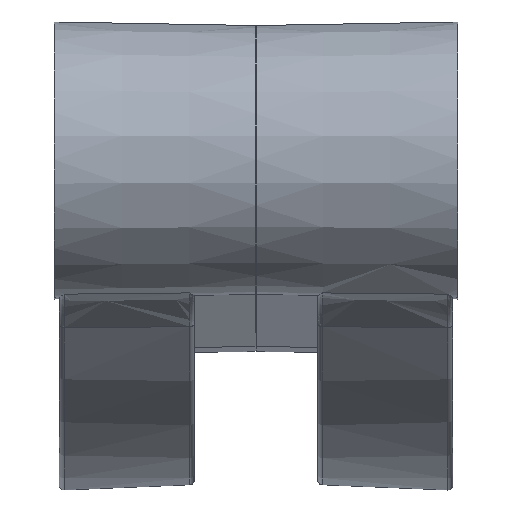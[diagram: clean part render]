
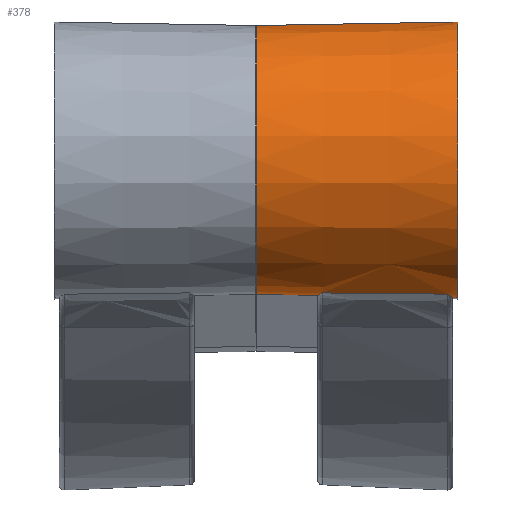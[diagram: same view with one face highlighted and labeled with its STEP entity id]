
A CAD part, top view. The second image highlights one B-rep face of the part: STEP entity #378.
In plain terms, the highlighted conical face has half-angle 1 degrees and reference radius 2.8 mm.
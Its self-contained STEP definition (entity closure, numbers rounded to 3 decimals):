
#262=CARTESIAN_POINT('',(2.0,0.,7.5));
#263=DIRECTION('',(1.0,0.0,0.0));
#264=DIRECTION('',(0.0,1.0,0.0));
#265=AXIS2_PLACEMENT_3D('',#262,#263,#264);
#266=CONICAL_SURFACE('',#265,2.8,1.0);
#267=CARTESIAN_POINT('',(2.0,2.8,7.5));
#268=VERTEX_POINT('',#267);
#269=CARTESIAN_POINT('',(2.1,2.802,7.5));
#270=VERTEX_POINT('',#269);
#271=CARTESIAN_POINT('',(2.0,2.8,7.5));
#272=DIRECTION('',(1.,0.017,0.0));
#273=VECTOR('',#272,0.1);
#274=LINE('',#271,#273);
#275=EDGE_CURVE('',#268,#270,#274,.T.);
#276=ORIENTED_EDGE('',*,*,#275,.F.);
#277=CARTESIAN_POINT('',(-2.0,2.73,7.5));
#278=VERTEX_POINT('',#277);
#279=CARTESIAN_POINT('',(2.0,2.8,7.5));
#280=DIRECTION('',(-1.,-0.017,0.0));
#281=VECTOR('',#280,4.001);
#282=LINE('',#279,#281);
#283=EDGE_CURVE('',#268,#278,#282,.T.);
#284=ORIENTED_EDGE('',*,*,#283,.T.);
#285=CARTESIAN_POINT('',(-2.0,-2.73,7.5));
#286=VERTEX_POINT('',#285);
#287=CARTESIAN_POINT('',(-2.0,0.,7.5));
#288=DIRECTION('',(-1.0,0.0,0.0));
#289=DIRECTION('',(0.0,1.0,0.0));
#290=AXIS2_PLACEMENT_3D('',#287,#288,#289);
#291=CIRCLE('',#290,2.73);
#292=EDGE_CURVE('',#278,#286,#291,.F.);
#293=ORIENTED_EDGE('',*,*,#292,.T.);
#294=CARTESIAN_POINT('',(-0.75,-2.752,7.5));
#295=VERTEX_POINT('',#294);
#296=CARTESIAN_POINT('',(-0.75,-2.752,7.5));
#297=DIRECTION('',(-1.,0.017,0.0));
#298=VECTOR('',#297,1.25);
#299=LINE('',#296,#298);
#300=EDGE_CURVE('',#295,#286,#299,.T.);
#301=ORIENTED_EDGE('',*,*,#300,.F.);
#302=CARTESIAN_POINT('',(-0.75,-2.752,7.533));
#303=VERTEX_POINT('',#302);
#304=CARTESIAN_POINT('',(-0.75,0.,7.5));
#305=DIRECTION('',(-1.0,0.0,0.0));
#306=DIRECTION('',(0.0,1.0,0.0));
#307=AXIS2_PLACEMENT_3D('',#304,#305,#306);
#308=CIRCLE('',#307,2.752);
#309=EDGE_CURVE('',#295,#303,#308,.T.);
#310=ORIENTED_EDGE('',*,*,#309,.T.);
#311=CARTESIAN_POINT('',(-0.652,-2.705,8.015));
#312=VERTEX_POINT('',#311);
#313=CARTESIAN_POINT('',(-0.75,-2.752,7.533));
#314=CARTESIAN_POINT('',(-0.75,-2.751,7.586));
#315=CARTESIAN_POINT('',(-0.743,-2.749,7.653));
#316=CARTESIAN_POINT('',(-0.706,-2.734,7.832));
#317=CARTESIAN_POINT('',(-0.679,-2.722,7.923));
#318=CARTESIAN_POINT('',(-0.652,-2.705,8.014));
#319=CARTESIAN_POINT('',(-0.652,-2.705,8.014));
#320=CARTESIAN_POINT('',(-0.652,-2.705,8.015));
#321=B_SPLINE_CURVE_WITH_KNOTS('',3,(#313,#314,#315,#316,#317,#318,#319,#320),.UNSPECIFIED.,.F.,.U.,(4,2,2,4),(0.0,0.159,0.326,0.327),.UNSPECIFIED.);
#322=EDGE_CURVE('',#312,#303,#321,.F.);
#323=ORIENTED_EDGE('',*,*,#322,.F.);
#324=CARTESIAN_POINT('',(1.898,-2.73,8.114));
#325=VERTEX_POINT('',#324);
#326=CARTESIAN_POINT('',(1.898,-2.73,8.114));
#327=CARTESIAN_POINT('',(1.799,-2.729,8.11));
#328=CARTESIAN_POINT('',(1.7,-2.728,8.106));
#329=CARTESIAN_POINT('',(1.267,-2.724,8.089));
#330=CARTESIAN_POINT('',(0.932,-2.721,8.076));
#331=CARTESIAN_POINT('',(0.406,-2.716,8.056));
#332=CARTESIAN_POINT('',(0.214,-2.714,8.048));
#333=CARTESIAN_POINT('',(-0.202,-2.71,8.032));
#334=CARTESIAN_POINT('',(-0.427,-2.707,8.023));
#335=CARTESIAN_POINT('',(-0.652,-2.705,8.015));
#336=B_SPLINE_CURVE_WITH_KNOTS('',3,(#326,#327,#328,#329,#330,#331,#332,#333,#334,#335),.UNSPECIFIED.,.F.,.U.,(4,2,2,2,4),(2.137,2.434,3.44,4.016,4.692),.UNSPECIFIED.);
#337=EDGE_CURVE('',#325,#312,#336,.T.);
#338=ORIENTED_EDGE('',*,*,#337,.F.);
#339=CARTESIAN_POINT('',(2.0,-2.797,7.625));
#340=VERTEX_POINT('',#339);
#341=CARTESIAN_POINT('',(1.898,-2.73,8.114));
#342=CARTESIAN_POINT('',(1.898,-2.73,8.114));
#343=CARTESIAN_POINT('',(1.899,-2.73,8.113));
#344=CARTESIAN_POINT('',(1.926,-2.751,8.021));
#345=CARTESIAN_POINT('',(1.954,-2.768,7.928));
#346=CARTESIAN_POINT('',(1.993,-2.791,7.745));
#347=CARTESIAN_POINT('',(2.,-2.795,7.678));
#348=CARTESIAN_POINT('',(2.,-2.797,7.625));
#349=B_SPLINE_CURVE_WITH_KNOTS('',3,(#341,#342,#343,#344,#345,#346,#347,#348),.UNSPECIFIED.,.F.,.U.,(4,2,2,4),(-0.001,0.0,0.295,0.58),.UNSPECIFIED.);
#350=EDGE_CURVE('',#340,#325,#349,.F.);
#351=ORIENTED_EDGE('',*,*,#350,.F.);
#352=CARTESIAN_POINT('',(2.0,-2.8,7.5));
#353=VERTEX_POINT('',#352);
#354=CARTESIAN_POINT('',(2.0,0.,7.5));
#355=DIRECTION('',(1.0,0.0,0.0));
#356=DIRECTION('',(0.0,1.0,0.0));
#357=AXIS2_PLACEMENT_3D('',#354,#355,#356);
#358=CIRCLE('',#357,2.8);
#359=EDGE_CURVE('',#340,#353,#358,.T.);
#360=ORIENTED_EDGE('',*,*,#359,.T.);
#361=CARTESIAN_POINT('',(2.1,-2.802,7.5));
#362=VERTEX_POINT('',#361);
#363=CARTESIAN_POINT('',(2.0,-2.8,7.5));
#364=DIRECTION('',(1.,-0.017,0.0));
#365=VECTOR('',#364,0.1);
#366=LINE('',#363,#365);
#367=EDGE_CURVE('',#353,#362,#366,.T.);
#368=ORIENTED_EDGE('',*,*,#367,.T.);
#369=CARTESIAN_POINT('',(2.1,0.,7.5));
#370=DIRECTION('',(-1.0,0.0,0.0));
#371=DIRECTION('',(0.0,1.0,0.0));
#372=AXIS2_PLACEMENT_3D('',#369,#370,#371);
#373=CIRCLE('',#372,2.802);
#374=EDGE_CURVE('',#362,#270,#373,.T.);
#375=ORIENTED_EDGE('',*,*,#374,.T.);
#376=EDGE_LOOP('',(#276,#284,#293,#301,#310,#323,#338,#351,#360,#368,#375));
#377=FACE_OUTER_BOUND('',#376,.T.);
#378=ADVANCED_FACE('',(#377),#266,.T.);
